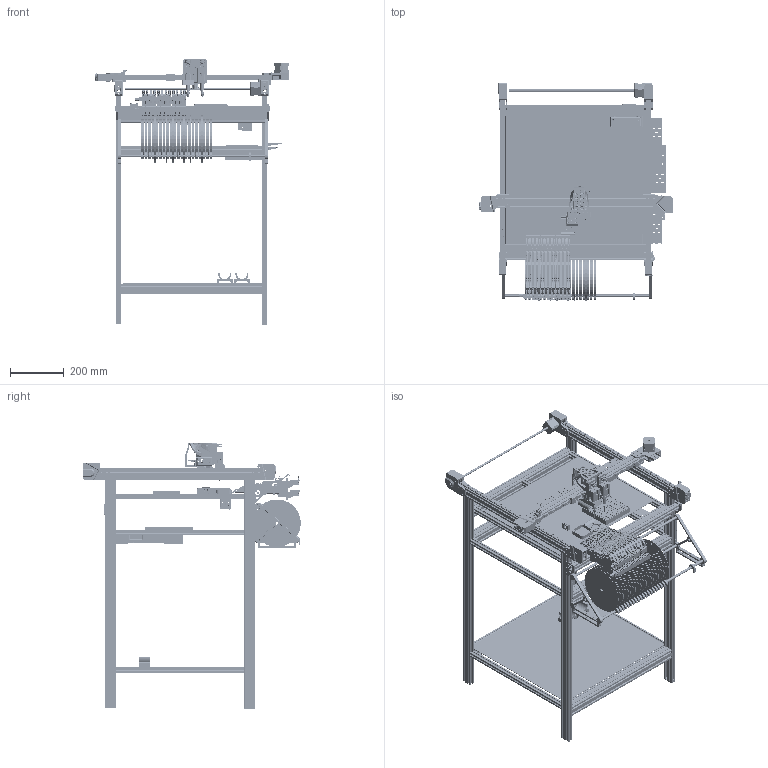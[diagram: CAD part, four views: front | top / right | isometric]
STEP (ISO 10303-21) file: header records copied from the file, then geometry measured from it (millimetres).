
FILE_DESCRIPTION (( 'STEP AP214' ), '1' );
FILE_NAME ('0_assembly.STEP', '2017-12-31T09:15:15', ( '' ), ( '' ), 'SwSTEP 2.0', 'SolidWorks 2017', '' );
FILE_SCHEMA (( 'AUTOMOTIVE_DESIGN' ));
Length unit declared in the file: millimetre
Products named in the file (127): SSEB10-75_r; feeder_pin_new; spur gear_din_DIN - Spur gear 0.8M 16T 20PA 5,5FW ---S16B75H12L5N; 0_assembly_feeder; tensioner_belt_xy; power_in; head-rear; base_cover; brightfield_light_stripeholderv7_dometunnel; Idler PulleyHolder_x; power_mount_rear; y-shaft-active; head-carriage; lever_servo_advancer; n20-motor-pcbv3; 1_rahmen; Mean Well QP-320D Quad Power Supply; cablechain_holder_3dprintable_top; 3_y-achse_aktiv; motor_assembly; greenscreen-clip; disabler; bottom_table; Switchlab T14-EO33-09 Terminal Block; vis_homing_fid_holder; y_axis_endwithtensioner; servoarm; greenscreen; spring_pull; GT2_20teeth_Valor predeterminado; Cover for Switchlab T14-EO33-09 Terminal Block; vis_homing_fid_holder_blend; Idler PulleyHolder.ipt.stp.f3d_3dprintable; PRT0002; dichtring5mm; tape_pushdown_springloaded; Motor Mount Plate_y-axisDoubleShaftPassive; base; nema8_hollow_shaft25mmIDoring; lever_coverswitch_pullingSpring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
Assembly tree (264 placements, depth 6):
  0_assembly
    1_rahmen
      HFS5-2040-150  x4
      HFS5-4040-525  x6
      HFS5-2020-480  x8
      HFS5-2040-600
      SSEB13-595
        SSEB13-595_r
        SSEB13_b
      bed_mdf
      Idler PulleyHolder.mirrored
      Motor Mount Plate_y-axisDoubleShaftPassive
      GT2_20teeth_Valor predeterminado
      bottom_table
    2_x-achse
      HFS5-2040-600
      SSEB13-595
        SSEB13-595_r
        SSEB13_b
      x_axis_withtensioner
        Idler PulleyHolder_x
        tensioner_belt_xy
        stellrad
      NEMA17 Motor Mount Plate.ipt.stp.f3d 3dprintable
      Steppermotor.SLDPRT.f3d v3
      slide_mount  x2
      klemmkeil
      Pulley_GT2_50-tooth_idler
      endstop-mount-x
        endstop-mount-x
        Micro Switch Button
      GT2_20teeth_Valor predeterminado
      GT2_16teeth
    3_y-achse_aktiv
      HFS5-2040-600
      SSEB13-595
        SSEB13-595_r
        SSEB13_b
      Motor Mount Plate_y-axisDoubleShaft
      Steppermotor.SLDPRT.f3d v3
      y_axis_endwithtensioner
        Idler PulleyHolder.ipt.stp.f3d_3dprintable
        stellrad
        tensioner_belt_xy
      Pulley_GT2_50-tooth_idler
      GT2_20teeth_Valor predeterminado
      GT2_16teeth
    4_head
      head-carriage
      head-rear
      SSEB10-75  x2
        SSEB10-75_r
        SSEB10_b
      Steppermotor.SLDPRT.f3d v3
      nozzle_carriage_right_mirrored
      Nema-8-stepper-motor v2  x2
      nozzle_carriage
      GEABS0_8-12-7-K-5
        SET-SCREW3-3
      RGEAB0_8-80
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Bounding box: 722 x 812.88 x 994 mm (x, y, z)
Volume: 12152284.8 mm3; surface area: 8473902.9 mm2
Topology: 864 solids, 868 shells, 45058 faces, 114582 edges, 72312 vertices
Faces by surface type: plane 27147, cylinder 13558, bspline 2433, cone 1842, torus 44, sphere 34
Entity records: 423521 total; most frequent: CARTESIAN_POINT 87613, ORIENTED_EDGE 66364, DIRECTION 65806, EDGE_CURVE 33182, VECTOR 24350, LINE 24350, AXIS2_PLACEMENT_3D 20728, VERTEX_POINT 20691
